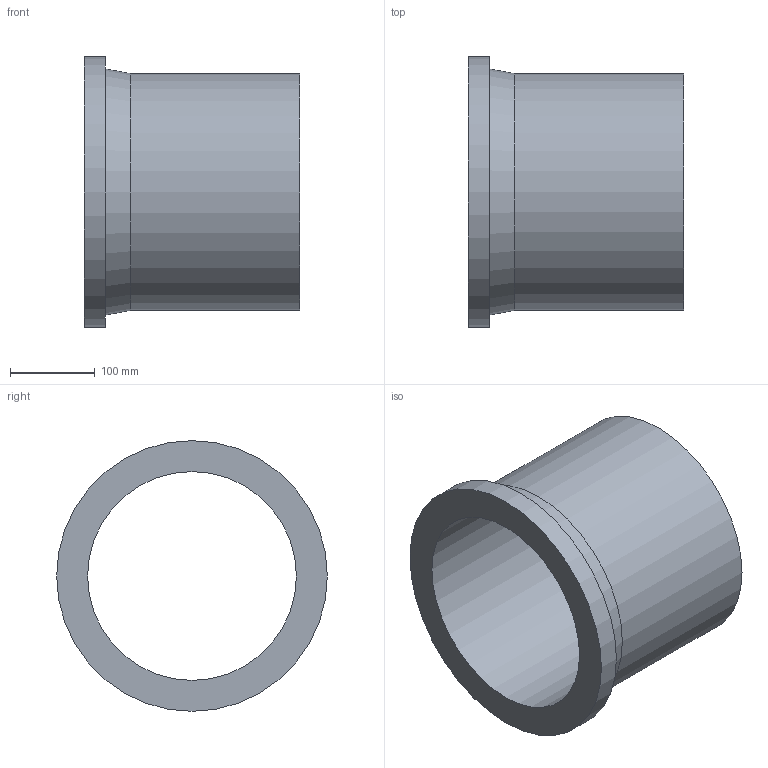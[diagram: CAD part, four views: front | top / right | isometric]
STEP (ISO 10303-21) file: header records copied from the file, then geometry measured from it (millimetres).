
FILE_DESCRIPTION(('Beschreibung'),'1');
FILE_NAME('V:/Ziel/25.80.01.063_SDR_17_PE100_280.STP', '2014-09-15T05:55:39',('Author'), ('Organization'), 'KCM Version 1.1.794.0', 'Kubotek KeyCreator', 'Authorization');
FILE_SCHEMA(('CONFIG_CONTROL_DESIGN'));
Length unit declared in the file: millimetre
Bounding box: 255 x 320 x 320 mm (x, y, z)
Volume: 4047548.5 mm3; surface area: 486370 mm2
Topology: 1 solids, 1 shells, 7 faces, 18 edges, 21 vertices
Faces by surface type: cylinder 3, plane 3, cone 1
Full cylindrical faces by diameter (mm): 246.8 x1, 280 x1, 320 x1
Entity records: 286 total; most frequent: DIRECTION 41, CARTESIAN_POINT 33, ORIENTED_EDGE 22, AXIS2_PLACEMENT_3D 15, EDGE_CURVE 11, VECTOR 11, LINE 11, EDGE_LOOP 10
